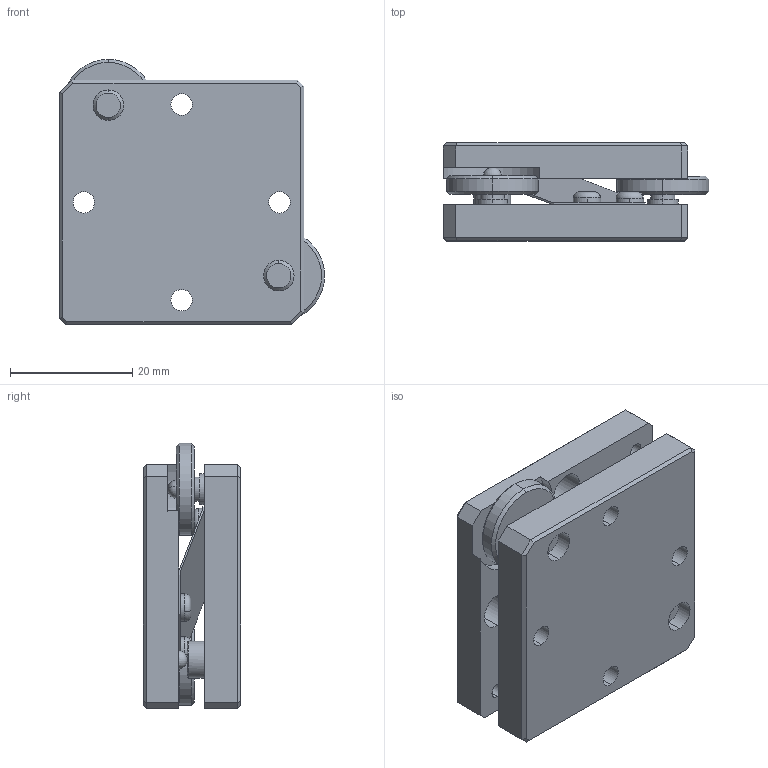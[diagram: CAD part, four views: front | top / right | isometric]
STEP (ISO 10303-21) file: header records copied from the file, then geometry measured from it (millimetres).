
FILE_DESCRIPTION (( 'STEP AP203' ), '1' );
FILE_NAME ('BTD40.STEP', '2024-03-04T02:33:25', ( 'China' ), ( 'Microsoft' ), 'SwSTEP 2.0', 'SolidWorks 2024', '' );
FILE_SCHEMA (( 'CONFIG_CONTROL_DESIGN' ));
Length unit declared in the file: millimetre
Products named in the file (1): BTD40
Bounding box: 43.38 x 16 x 43.38 mm (x, y, z)
Volume: 18226 mm3; surface area: 10808.3 mm2
Topology: 4 solids, 4 shells, 180 faces, 427 edges, 272 vertices
Faces by surface type: plane 80, cylinder 72, torus 14, cone 12, sphere 2
Entity records: 5447 total; most frequent: CARTESIAN_POINT 1012, DIRECTION 970, ORIENTED_EDGE 846, EDGE_CURVE 423, AXIS2_PLACEMENT_3D 374, VERTEX_POINT 272, EDGE_LOOP 229, LINE 222
